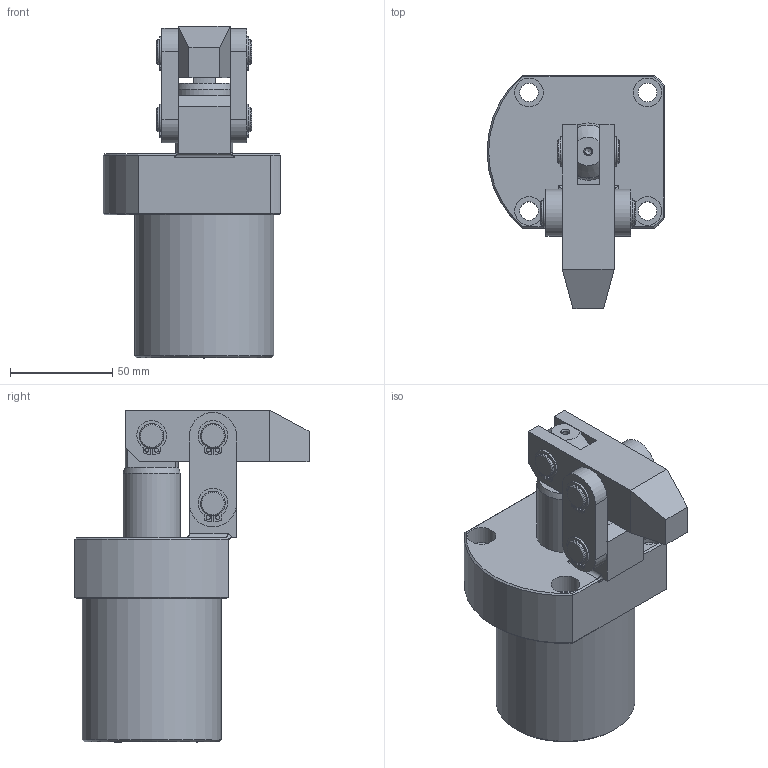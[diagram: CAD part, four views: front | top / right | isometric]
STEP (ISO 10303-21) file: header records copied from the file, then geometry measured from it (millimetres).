
FILE_DESCRIPTION(/* description */ ('Unknown'),/* implementation_level */ '2;1');
FILE_NAME(/* name */ 'HLC-FAM50-R-A',/* time_stamp */ '2022-11-23T03:16:39+08:00',/* author */ ('Unknown'),/* organization */ ('Unknown'),/* preprocessor_version */ 'ST-DEVELOPER v16.7',/* originating_system */ 'DEX',/* authorisation */ $);
FILE_SCHEMA (('AUTOMOTIVE_DESIGN {1 0 10303 214 3 1 1}'));
Length unit declared in the file: millimetre
Products named in the file (8): HLC-FAM50-R-A; HLC-FAM50-R-CYLINDER; HLC-5002-AXLE CENTRE; HLC-50-A; HLC-50-乖婂湀; HLC-50-PINµu; HLC-50-PINªø·; HLC-50-C扣0
Assembly tree (14 placements, depth 2):
  HLC-FAM50-R-A
    HLC-FAM50-R-CYLINDER
    HLC-5002-AXLE CENTRE
    HLC-50-A
    HLC-50-乖婂湀  x2
    HLC-50-PINµu
    HLC-50-PINªø·  x2
    HLC-50-C扣0  x6
Bounding box: 87 x 114.5 x 162.4 mm (x, y, z)
Volume: 470658.7 mm3; surface area: 94875.5 mm2
Topology: 14 solids, 14 shells, 265 faces, 607 edges, 397 vertices
Faces by surface type: cylinder 123, plane 118, cone 22, torus 2
Full cylindrical faces by diameter (mm): 2 x12, 3 x2, 3.2 x1, 4.1 x2, 9 x4, 11.3 x6, 12 x20, 14 x4, 28 x2, 49.4 x1, 50 x1, 68 x1
Entity records: 4413 total; most frequent: DIRECTION 770, CARTESIAN_POINT 738, ORIENTED_EDGE 574, AXIS2_PLACEMENT_3D 322, EDGE_CURVE 287, FACE_BOUND 267, EDGE_LOOP 266, VERTEX_POINT 214
